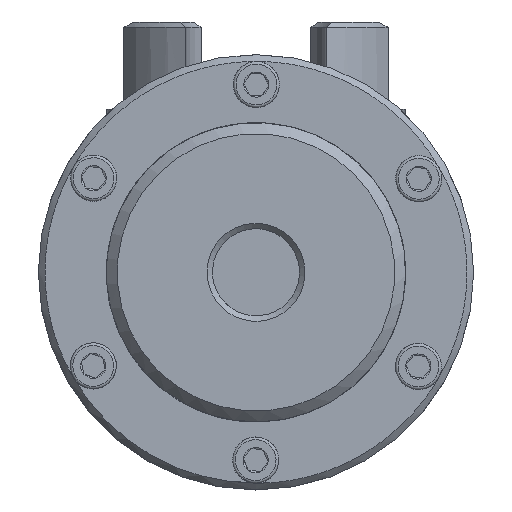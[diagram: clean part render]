
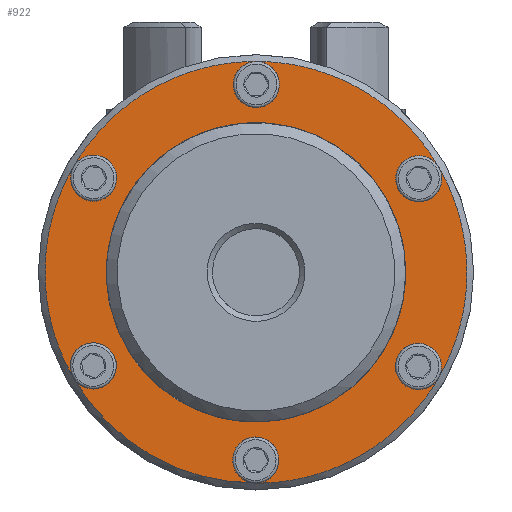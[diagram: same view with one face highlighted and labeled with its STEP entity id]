
A CAD part, left-side view. The second image highlights one B-rep face of the part: STEP entity #922.
In plain terms, the highlighted planar face has unit normal (-1, 0, 0).
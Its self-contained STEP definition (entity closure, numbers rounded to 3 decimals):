
#922 = ADVANCED_FACE( '', ( #1861, #1862 ), #1863, .F. );
#1861 = FACE_OUTER_BOUND( '', #2760, .T. );
#1862 = FACE_BOUND( '', #2761, .T. );
#1863 = PLANE( '', #2762 );
#2760 = EDGE_LOOP( '', ( #4926, #4927, #4928, #4929, #4930, #4931, #4932, #4933, #4934, #4935, #4936, #4937 ) );
#2761 = EDGE_LOOP( '', ( #4938 ) );
#2762 = AXIS2_PLACEMENT_3D( '', #4939, #4940, #4941 );
#4926 = ORIENTED_EDGE( '', *, *, #5997, .T. );
#4927 = ORIENTED_EDGE( '', *, *, #5990, .T. );
#4928 = ORIENTED_EDGE( '', *, *, #5998, .T. );
#4929 = ORIENTED_EDGE( '', *, *, #5989, .T. );
#4930 = ORIENTED_EDGE( '', *, *, #5995, .T. );
#4931 = ORIENTED_EDGE( '', *, *, #5994, .T. );
#4932 = ORIENTED_EDGE( '', *, *, #5999, .T. );
#4933 = ORIENTED_EDGE( '', *, *, #5993, .T. );
#4934 = ORIENTED_EDGE( '', *, *, #6000, .T. );
#4935 = ORIENTED_EDGE( '', *, *, #5992, .T. );
#4936 = ORIENTED_EDGE( '', *, *, #6001, .T. );
#4937 = ORIENTED_EDGE( '', *, *, #5991, .T. );
#4938 = ORIENTED_EDGE( '', *, *, #6002, .F. );
#4939 = CARTESIAN_POINT( '', ( -13.499, 40., 0. ) );
#4940 = DIRECTION( '', ( 1., 0., 0. ) );
#4941 = DIRECTION( '', ( 0., 1., 0. ) );
#5989 = EDGE_CURVE( '', #7089, #7090, #7091, .F. );
#5990 = EDGE_CURVE( '', #7092, #7089, #7093, .F. );
#5991 = EDGE_CURVE( '', #7094, #7092, #7095, .F. );
#5992 = EDGE_CURVE( '', #7096, #7094, #7097, .F. );
#5993 = EDGE_CURVE( '', #7098, #7096, #7099, .F. );
#5994 = EDGE_CURVE( '', #7090, #7098, #7100, .F. );
#5995 = EDGE_CURVE( '', #7090, #7090, #7101, .T. );
#5997 = EDGE_CURVE( '', #7092, #7092, #7104, .T. );
#5998 = EDGE_CURVE( '', #7089, #7089, #7105, .T. );
#5999 = EDGE_CURVE( '', #7098, #7098, #7106, .T. );
#6000 = EDGE_CURVE( '', #7096, #7096, #7107, .T. );
#6001 = EDGE_CURVE( '', #7094, #7094, #7108, .T. );
#6002 = EDGE_CURVE( '', #7109, #7109, #7110, .F. );
#7089 = VERTEX_POINT( '', #9179 );
#7090 = VERTEX_POINT( '', #9180 );
#7091 = CIRCLE( '', #9181, 38.75 );
#7092 = VERTEX_POINT( '', #9182 );
#7093 = CIRCLE( '', #9183, 38.75 );
#7094 = VERTEX_POINT( '', #9184 );
#7095 = CIRCLE( '', #9185, 38.75 );
#7096 = VERTEX_POINT( '', #9186 );
#7097 = CIRCLE( '', #9187, 38.75 );
#7098 = VERTEX_POINT( '', #9188 );
#7099 = CIRCLE( '', #9189, 38.75 );
#7100 = CIRCLE( '', #9190, 38.75 );
#7101 = CIRCLE( '', #9191, 4.25 );
#7104 = CIRCLE( '', #9194, 4.25 );
#7105 = CIRCLE( '', #9195, 4.25 );
#7106 = CIRCLE( '', #9196, 4.25 );
#7107 = CIRCLE( '', #9197, 4.25 );
#7108 = CIRCLE( '', #9198, 4.25 );
#7109 = VERTEX_POINT( '', #9199 );
#7110 = CIRCLE( '', #9200, 27.5 );
#9179 = CARTESIAN_POINT( '', ( -13.499, 33.558, 19.375 ) );
#9180 = CARTESIAN_POINT( '', ( -13.499, 33.558, -19.375 ) );
#9181 = AXIS2_PLACEMENT_3D( '', #10471, #10472, #10473 );
#9182 = CARTESIAN_POINT( '', ( -13.499, 0., 38.75 ) );
#9183 = AXIS2_PLACEMENT_3D( '', #10474, #10475, #10476 );
#9184 = CARTESIAN_POINT( '', ( -13.499, -33.558, 19.375 ) );
#9185 = AXIS2_PLACEMENT_3D( '', #10477, #10478, #10479 );
#9186 = CARTESIAN_POINT( '', ( -13.499, -33.558, -19.375 ) );
#9187 = AXIS2_PLACEMENT_3D( '', #10480, #10481, #10482 );
#9188 = CARTESIAN_POINT( '', ( -13.499, 0., -38.75 ) );
#9189 = AXIS2_PLACEMENT_3D( '', #10483, #10484, #10485 );
#9190 = AXIS2_PLACEMENT_3D( '', #10486, #10487, #10488 );
#9191 = AXIS2_PLACEMENT_3D( '', #10489, #10490, #10491 );
#9194 = AXIS2_PLACEMENT_3D( '', #10495, #10496, #10497 );
#9195 = AXIS2_PLACEMENT_3D( '', #10498, #10499, #10500 );
#9196 = AXIS2_PLACEMENT_3D( '', #10501, #10502, #10503 );
#9197 = AXIS2_PLACEMENT_3D( '', #10504, #10505, #10506 );
#9198 = AXIS2_PLACEMENT_3D( '', #10507, #10508, #10509 );
#9199 = CARTESIAN_POINT( '', ( -13.499, 0., -27.5 ) );
#9200 = AXIS2_PLACEMENT_3D( '', #10510, #10511, #10512 );
#10471 = CARTESIAN_POINT( '', ( -13.499, 0., 0. ) );
#10472 = DIRECTION( '', ( 1., 0., 0. ) );
#10473 = DIRECTION( '', ( 0., 0., -1. ) );
#10474 = CARTESIAN_POINT( '', ( -13.499, 0., 0. ) );
#10475 = DIRECTION( '', ( 1., 0., 0. ) );
#10476 = DIRECTION( '', ( 0., 0., -1. ) );
#10477 = CARTESIAN_POINT( '', ( -13.499, 0., 0. ) );
#10478 = DIRECTION( '', ( 1., 0., 0. ) );
#10479 = DIRECTION( '', ( 0., 0., -1. ) );
#10480 = CARTESIAN_POINT( '', ( -13.499, 0., 0. ) );
#10481 = DIRECTION( '', ( 1., 0., 0. ) );
#10482 = DIRECTION( '', ( 0., 0., -1. ) );
#10483 = CARTESIAN_POINT( '', ( -13.499, 0., 0. ) );
#10484 = DIRECTION( '', ( 1., 0., 0. ) );
#10485 = DIRECTION( '', ( 0., 0., -1. ) );
#10486 = CARTESIAN_POINT( '', ( -13.499, 0., 0. ) );
#10487 = DIRECTION( '', ( 1., 0., 0. ) );
#10488 = DIRECTION( '', ( 0., 0., -1. ) );
#10489 = CARTESIAN_POINT( '', ( -13.499, 29.878, -17.25 ) );
#10490 = DIRECTION( '', ( 1., 0., 0. ) );
#10491 = DIRECTION( '', ( 0., 0., -1. ) );
#10495 = CARTESIAN_POINT( '', ( -13.499, 0., 34.5 ) );
#10496 = DIRECTION( '', ( 1., 0., 0. ) );
#10497 = DIRECTION( '', ( 0., 0., -1. ) );
#10498 = CARTESIAN_POINT( '', ( -13.499, 29.878, 17.25 ) );
#10499 = DIRECTION( '', ( 1., 0., 0. ) );
#10500 = DIRECTION( '', ( 0., 0., -1. ) );
#10501 = CARTESIAN_POINT( '', ( -13.499, 0., -34.5 ) );
#10502 = DIRECTION( '', ( 1., 0., 0. ) );
#10503 = DIRECTION( '', ( 0., 0., -1. ) );
#10504 = CARTESIAN_POINT( '', ( -13.499, -29.878, -17.25 ) );
#10505 = DIRECTION( '', ( 1., 0., 0. ) );
#10506 = DIRECTION( '', ( 0., 0., -1. ) );
#10507 = CARTESIAN_POINT( '', ( -13.499, -29.878, 17.25 ) );
#10508 = DIRECTION( '', ( 1., 0., 0. ) );
#10509 = DIRECTION( '', ( 0., 0., -1. ) );
#10510 = CARTESIAN_POINT( '', ( -13.499, 0., 0. ) );
#10511 = DIRECTION( '', ( 1., 0., 0. ) );
#10512 = DIRECTION( '', ( 0., 0., -1. ) );
